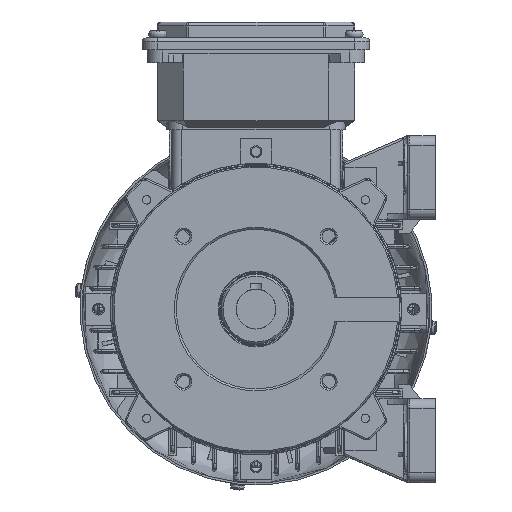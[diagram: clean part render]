
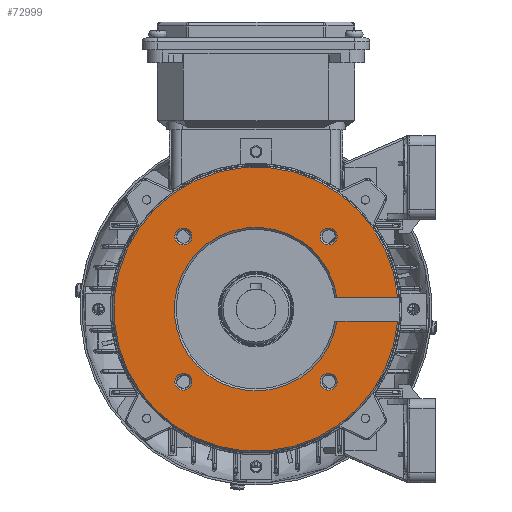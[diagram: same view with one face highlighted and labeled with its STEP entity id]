
A CAD part, front view. The second image highlights one B-rep face of the part: STEP entity #72999.
In plain terms, the highlighted planar face has unit normal (0, -1, 0).
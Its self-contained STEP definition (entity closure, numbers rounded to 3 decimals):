
#3198=FACE_BOUND('',#8262,.T.);
#3199=FACE_BOUND('',#8263,.T.);
#3200=FACE_BOUND('',#8264,.T.);
#3201=FACE_BOUND('',#8265,.T.);
#4281=FACE_OUTER_BOUND('',#8261,.T.);
#8261=EDGE_LOOP('',(#49048,#49049,#49050,#49051));
#8262=EDGE_LOOP('',(#49052,#49053));
#8263=EDGE_LOOP('',(#49054,#49055));
#8264=EDGE_LOOP('',(#49056,#49057));
#8265=EDGE_LOOP('',(#49058,#49059));
#13191=LINE('',#108055,#19403);
#13195=LINE('',#108083,#19407);
#19403=VECTOR('',#86922,1000.);
#19407=VECTOR('',#86944,1000.);
#24405=CIRCLE('',#77261,4.25);
#24406=CIRCLE('',#77262,4.25);
#24444=CIRCLE('',#77308,4.25);
#24445=CIRCLE('',#77309,4.25);
#24446=CIRCLE('',#77311,4.25);
#24447=CIRCLE('',#77312,4.25);
#24450=CIRCLE('',#77317,4.25);
#24451=CIRCLE('',#77318,4.25);
#24454=CIRCLE('',#77323,71.3);
#24459=CIRCLE('',#77331,41.);
#28381=VERTEX_POINT('',#107836);
#28382=VERTEX_POINT('',#107838);
#28433=VERTEX_POINT('',#108022);
#28434=VERTEX_POINT('',#108024);
#28435=VERTEX_POINT('',#108028);
#28436=VERTEX_POINT('',#108030);
#28439=VERTEX_POINT('',#108040);
#28440=VERTEX_POINT('',#108042);
#28443=VERTEX_POINT('',#108049);
#28444=VERTEX_POINT('',#108054);
#28448=VERTEX_POINT('',#108065);
#28453=VERTEX_POINT('',#108082);
#36123=EDGE_CURVE('',#28382,#28381,#24405,.T.);
#36124=EDGE_CURVE('',#28381,#28382,#24406,.T.);
#36187=EDGE_CURVE('',#28434,#28433,#24444,.T.);
#36188=EDGE_CURVE('',#28433,#28434,#24445,.T.);
#36190=EDGE_CURVE('',#28436,#28435,#24446,.T.);
#36191=EDGE_CURVE('',#28435,#28436,#24447,.T.);
#36196=EDGE_CURVE('',#28440,#28439,#24450,.T.);
#36197=EDGE_CURVE('',#28439,#28440,#24451,.T.);
#36200=EDGE_CURVE('',#28443,#28444,#13191,.T.);
#36207=EDGE_CURVE('',#28444,#28448,#24454,.T.);
#36212=EDGE_CURVE('',#28448,#28453,#13195,.T.);
#36217=EDGE_CURVE('',#28443,#28453,#24459,.F.);
#49048=ORIENTED_EDGE('',*,*,#36200,.F.);
#49049=ORIENTED_EDGE('',*,*,#36217,.T.);
#49050=ORIENTED_EDGE('',*,*,#36212,.F.);
#49051=ORIENTED_EDGE('',*,*,#36207,.F.);
#49052=ORIENTED_EDGE('',*,*,#36196,.T.);
#49053=ORIENTED_EDGE('',*,*,#36197,.T.);
#49054=ORIENTED_EDGE('',*,*,#36123,.T.);
#49055=ORIENTED_EDGE('',*,*,#36124,.T.);
#49056=ORIENTED_EDGE('',*,*,#36187,.T.);
#49057=ORIENTED_EDGE('',*,*,#36188,.T.);
#49058=ORIENTED_EDGE('',*,*,#36190,.T.);
#49059=ORIENTED_EDGE('',*,*,#36191,.T.);
#66888=PLANE('',#77333);
#72999=ADVANCED_FACE('',(#4281,#3198,#3199,#3200,#3201),#66888,.T.);
#77261=AXIS2_PLACEMENT_3D('',#107839,#86781,#86782);
#77262=AXIS2_PLACEMENT_3D('',#107840,#86783,#86784);
#77308=AXIS2_PLACEMENT_3D('',#108025,#86894,#86895);
#77309=AXIS2_PLACEMENT_3D('',#108026,#86896,#86897);
#77311=AXIS2_PLACEMENT_3D('',#108031,#86901,#86902);
#77312=AXIS2_PLACEMENT_3D('',#108032,#86903,#86904);
#77317=AXIS2_PLACEMENT_3D('',#108043,#86915,#86916);
#77318=AXIS2_PLACEMENT_3D('',#108044,#86917,#86918);
#77323=AXIS2_PLACEMENT_3D('',#108072,#86931,#86932);
#77331=AXIS2_PLACEMENT_3D('',#108093,#86951,#86952);
#77333=AXIS2_PLACEMENT_3D('',#108095,#86955,#86956);
#86781=DIRECTION('center_axis',(0.,1.,0.));
#86782=DIRECTION('ref_axis',(0.707,0.,0.707));
#86783=DIRECTION('center_axis',(0.,1.,0.));
#86784=DIRECTION('ref_axis',(0.707,0.,0.707));
#86894=DIRECTION('center_axis',(0.,1.,0.));
#86895=DIRECTION('ref_axis',(0.707,0.,0.707));
#86896=DIRECTION('center_axis',(0.,1.,0.));
#86897=DIRECTION('ref_axis',(0.707,0.,0.707));
#86901=DIRECTION('center_axis',(0.,1.,0.));
#86902=DIRECTION('ref_axis',(0.707,0.,0.707));
#86903=DIRECTION('center_axis',(0.,1.,0.));
#86904=DIRECTION('ref_axis',(0.707,0.,0.707));
#86915=DIRECTION('center_axis',(0.,1.,0.));
#86916=DIRECTION('ref_axis',(0.707,0.,0.707));
#86917=DIRECTION('center_axis',(0.,1.,0.));
#86918=DIRECTION('ref_axis',(0.707,0.,0.707));
#86922=DIRECTION('',(1.,0.,0.));
#86931=DIRECTION('center_axis',(0.,1.,0.));
#86932=DIRECTION('ref_axis',(0.707,0.,0.707));
#86944=DIRECTION('',(-1.,0.,0.));
#86951=DIRECTION('center_axis',(0.,-1.,0.));
#86952=DIRECTION('ref_axis',(-0.707,0.,-0.707));
#86955=DIRECTION('center_axis',(0.,-1.,0.));
#86956=DIRECTION('ref_axis',(-0.707,0.,-0.707));
#107836=CARTESIAN_POINT('',(-39.421,-118.,-39.421));
#107838=CARTESIAN_POINT('',(-33.411,-118.,-33.411));
#107839=CARTESIAN_POINT('Origin',(-36.416,-118.,-36.416));
#107840=CARTESIAN_POINT('Origin',(-36.416,-118.,-36.416));
#108022=CARTESIAN_POINT('',(-39.421,-118.,33.411));
#108024=CARTESIAN_POINT('',(-33.411,-118.,39.421));
#108025=CARTESIAN_POINT('Origin',(-36.416,-118.,36.416));
#108026=CARTESIAN_POINT('Origin',(-36.416,-118.,36.416));
#108028=CARTESIAN_POINT('',(33.411,-118.,33.411));
#108030=CARTESIAN_POINT('',(39.421,-118.,39.421));
#108031=CARTESIAN_POINT('Origin',(36.416,-118.,36.416));
#108032=CARTESIAN_POINT('Origin',(36.416,-118.,36.416));
#108040=CARTESIAN_POINT('',(33.411,-118.,-39.421));
#108042=CARTESIAN_POINT('',(39.421,-118.,-33.411));
#108043=CARTESIAN_POINT('Origin',(36.416,-118.,-36.416));
#108044=CARTESIAN_POINT('Origin',(36.416,-118.,-36.416));
#108049=CARTESIAN_POINT('',(40.559,-118.,-6.));
#108054=CARTESIAN_POINT('',(71.047,-118.,-6.));
#108055=CARTESIAN_POINT('',(36.82,-118.,-6.));
#108065=CARTESIAN_POINT('',(71.047,-118.,6.));
#108072=CARTESIAN_POINT('Origin',(0.,-118.,0.));
#108082=CARTESIAN_POINT('',(40.559,-118.,6.));
#108083=CARTESIAN_POINT('',(73.892,-118.,6.));
#108093=CARTESIAN_POINT('Origin',(0.,-118.,0.));
#108095=CARTESIAN_POINT('Origin',(28.284,-118.,28.284));
